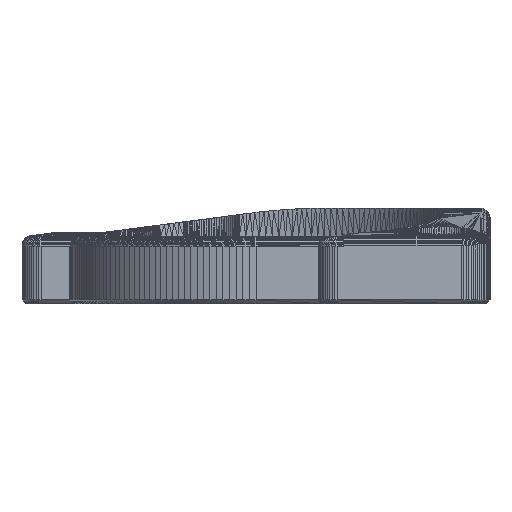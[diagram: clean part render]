
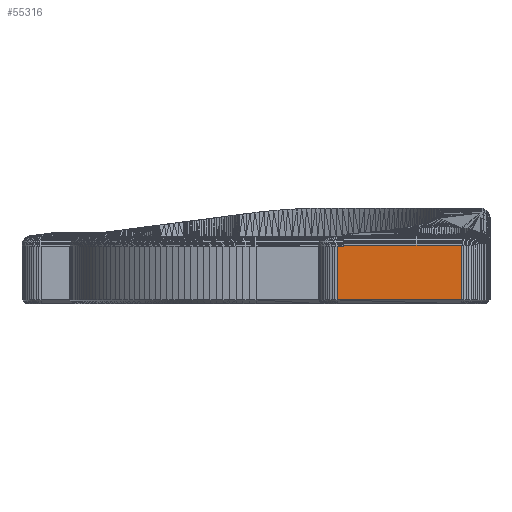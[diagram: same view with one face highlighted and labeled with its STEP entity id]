
A CAD part, front view. The second image highlights one B-rep face of the part: STEP entity #55316.
In plain terms, the highlighted planar face has unit normal (0, -1, 0).
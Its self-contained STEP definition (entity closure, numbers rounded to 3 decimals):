
#55182 = VERTEX_POINT('',#55183);
#55183 = CARTESIAN_POINT('',(89.471,-0.212,
    6.123));
#55223 = PLANE('',#55224);
#55224 = AXIS2_PLACEMENT_3D('',#55225,#55226,#55227);
#55225 = CARTESIAN_POINT('',(89.471,-0.212,
    0.4));
#55226 = DIRECTION('',(0.044,-0.999,-0.));
#55227 = DIRECTION('',(-0.999,-0.044,0.));
#55242 = VERTEX_POINT('',#55243);
#55243 = CARTESIAN_POINT('',(89.471,-0.212,
    0.4));
#55291 = EDGE_CURVE('',#55182,#55242,#55292,.T.);
#55292 = SURFACE_CURVE('',#55293,(#55297,#55304),.PCURVE_S1.);
#55293 = LINE('',#55294,#55295);
#55294 = CARTESIAN_POINT('',(89.471,-0.212,
    6.123));
#55295 = VECTOR('',#55296,1.);
#55296 = DIRECTION('',(0.,0.,-1.));
#55297 = PCURVE('',#55223,#55298);
#55298 = DEFINITIONAL_REPRESENTATION('',(#55299),#55303);
#55299 = LINE('',#55300,#55301);
#55300 = CARTESIAN_POINT('',(0.,-5.723));
#55301 = VECTOR('',#55302,1.);
#55302 = DIRECTION('',(-0.,1.));
#55303 = ( GEOMETRIC_REPRESENTATION_CONTEXT(2) 
PARAMETRIC_REPRESENTATION_CONTEXT() REPRESENTATION_CONTEXT('2D SPACE',''
  ) );
#55304 = PCURVE('',#55305,#55310);
#55305 = PLANE('',#55306);
#55306 = AXIS2_PLACEMENT_3D('',#55307,#55308,#55309);
#55307 = CARTESIAN_POINT('',(77.126,-0.212,6.));
#55308 = DIRECTION('',(0.,-1.,0.));
#55309 = DIRECTION('',(0.,-0.,-1.));
#55310 = DEFINITIONAL_REPRESENTATION('',(#55311),#55315);
#55311 = LINE('',#55312,#55313);
#55312 = CARTESIAN_POINT('',(-0.123,12.345));
#55313 = VECTOR('',#55314,1.);
#55314 = DIRECTION('',(1.,0.));
#55315 = ( GEOMETRIC_REPRESENTATION_CONTEXT(2) 
PARAMETRIC_REPRESENTATION_CONTEXT() REPRESENTATION_CONTEXT('2D SPACE',''
  ) );
#55316 = ADVANCED_FACE('',(#55317),#55305,.T.);
#55317 = FACE_BOUND('',#55318,.T.);
#55318 = EDGE_LOOP('',(#55319,#55349,#55377,#55403,#55404,#55432));
#55319 = ORIENTED_EDGE('',*,*,#55320,.F.);
#55320 = EDGE_CURVE('',#55321,#55323,#55325,.T.);
#55321 = VERTEX_POINT('',#55322);
#55322 = CARTESIAN_POINT('',(76.471,-0.212,6.));
#55323 = VERTEX_POINT('',#55324);
#55324 = CARTESIAN_POINT('',(77.126,-0.212,6.));
#55325 = SURFACE_CURVE('',#55326,(#55330,#55337),.PCURVE_S1.);
#55326 = LINE('',#55327,#55328);
#55327 = CARTESIAN_POINT('',(76.471,-0.212,6.));
#55328 = VECTOR('',#55329,1.);
#55329 = DIRECTION('',(1.,0.,0.));
#55330 = PCURVE('',#55305,#55331);
#55331 = DEFINITIONAL_REPRESENTATION('',(#55332),#55336);
#55332 = LINE('',#55333,#55334);
#55333 = CARTESIAN_POINT('',(-0.,-0.655));
#55334 = VECTOR('',#55335,1.);
#55335 = DIRECTION('',(0.,1.));
#55336 = ( GEOMETRIC_REPRESENTATION_CONTEXT(2) 
PARAMETRIC_REPRESENTATION_CONTEXT() REPRESENTATION_CONTEXT('2D SPACE',''
  ) );
#55337 = PCURVE('',#55338,#55343);
#55338 = PLANE('',#55339);
#55339 = AXIS2_PLACEMENT_3D('',#55340,#55341,#55342);
#55340 = CARTESIAN_POINT('',(76.471,-0.212,6.));
#55341 = DIRECTION('',(0.,-0.997,0.078));
#55342 = DIRECTION('',(0.,-0.078,-0.997));
#55343 = DEFINITIONAL_REPRESENTATION('',(#55344),#55348);
#55344 = LINE('',#55345,#55346);
#55345 = CARTESIAN_POINT('',(0.,0.));
#55346 = VECTOR('',#55347,1.);
#55347 = DIRECTION('',(0.,1.));
#55348 = ( GEOMETRIC_REPRESENTATION_CONTEXT(2) 
PARAMETRIC_REPRESENTATION_CONTEXT() REPRESENTATION_CONTEXT('2D SPACE',''
  ) );
#55349 = ORIENTED_EDGE('',*,*,#55350,.F.);
#55350 = EDGE_CURVE('',#55351,#55321,#55353,.T.);
#55351 = VERTEX_POINT('',#55352);
#55352 = CARTESIAN_POINT('',(76.471,-0.212,
    0.4));
#55353 = SURFACE_CURVE('',#55354,(#55358,#55365),.PCURVE_S1.);
#55354 = LINE('',#55355,#55356);
#55355 = CARTESIAN_POINT('',(76.471,-0.212,
    0.4));
#55356 = VECTOR('',#55357,1.);
#55357 = DIRECTION('',(0.,0.,1.));
#55358 = PCURVE('',#55305,#55359);
#55359 = DEFINITIONAL_REPRESENTATION('',(#55360),#55364);
#55360 = LINE('',#55361,#55362);
#55361 = CARTESIAN_POINT('',(5.6,-0.655));
#55362 = VECTOR('',#55363,1.);
#55363 = DIRECTION('',(-1.,0.));
#55364 = ( GEOMETRIC_REPRESENTATION_CONTEXT(2) 
PARAMETRIC_REPRESENTATION_CONTEXT() REPRESENTATION_CONTEXT('2D SPACE',''
  ) );
#55365 = PCURVE('',#55366,#55371);
#55366 = PLANE('',#55367);
#55367 = AXIS2_PLACEMENT_3D('',#55368,#55369,#55370);
#55368 = CARTESIAN_POINT('',(76.21,-0.195,
    0.4));
#55369 = DIRECTION('',(-0.065,-0.998,
    0.));
#55370 = DIRECTION('',(-0.998,0.065,0.));
#55371 = DEFINITIONAL_REPRESENTATION('',(#55372),#55376);
#55372 = LINE('',#55373,#55374);
#55373 = CARTESIAN_POINT('',(-0.262,0.));
#55374 = VECTOR('',#55375,1.);
#55375 = DIRECTION('',(0.,-1.));
#55376 = ( GEOMETRIC_REPRESENTATION_CONTEXT(2) 
PARAMETRIC_REPRESENTATION_CONTEXT() REPRESENTATION_CONTEXT('2D SPACE',''
  ) );
#55377 = ORIENTED_EDGE('',*,*,#55378,.F.);
#55378 = EDGE_CURVE('',#55242,#55351,#55379,.T.);
#55379 = SURFACE_CURVE('',#55380,(#55384,#55391),.PCURVE_S1.);
#55380 = LINE('',#55381,#55382);
#55381 = CARTESIAN_POINT('',(89.471,-0.212,
    0.4));
#55382 = VECTOR('',#55383,1.);
#55383 = DIRECTION('',(-1.,0.,0.));
#55384 = PCURVE('',#55305,#55385);
#55385 = DEFINITIONAL_REPRESENTATION('',(#55386),#55390);
#55386 = LINE('',#55387,#55388);
#55387 = CARTESIAN_POINT('',(5.6,12.345));
#55388 = VECTOR('',#55389,1.);
#55389 = DIRECTION('',(-0.,-1.));
#55390 = ( GEOMETRIC_REPRESENTATION_CONTEXT(2) 
PARAMETRIC_REPRESENTATION_CONTEXT() REPRESENTATION_CONTEXT('2D SPACE',''
  ) );
#55391 = PCURVE('',#55392,#55397);
#55392 = PLANE('',#55393);
#55393 = AXIS2_PLACEMENT_3D('',#55394,#55395,#55396);
#55394 = CARTESIAN_POINT('',(76.471,-0.212,
    0.4));
#55395 = DIRECTION('',(0.,-0.707,-0.707));
#55396 = DIRECTION('',(0.,0.707,-0.707));
#55397 = DEFINITIONAL_REPRESENTATION('',(#55398),#55402);
#55398 = LINE('',#55399,#55400);
#55399 = CARTESIAN_POINT('',(0.,13.));
#55400 = VECTOR('',#55401,1.);
#55401 = DIRECTION('',(0.,-1.));
#55402 = ( GEOMETRIC_REPRESENTATION_CONTEXT(2) 
PARAMETRIC_REPRESENTATION_CONTEXT() REPRESENTATION_CONTEXT('2D SPACE',''
  ) );
#55403 = ORIENTED_EDGE('',*,*,#55291,.F.);
#55404 = ORIENTED_EDGE('',*,*,#55405,.F.);
#55405 = EDGE_CURVE('',#55406,#55182,#55408,.T.);
#55406 = VERTEX_POINT('',#55407);
#55407 = CARTESIAN_POINT('',(77.126,-0.212,
    6.123));
#55408 = SURFACE_CURVE('',#55409,(#55413,#55420),.PCURVE_S1.);
#55409 = LINE('',#55410,#55411);
#55410 = CARTESIAN_POINT('',(77.126,-0.212,
    6.123));
#55411 = VECTOR('',#55412,1.);
#55412 = DIRECTION('',(1.,0.,0.));
#55413 = PCURVE('',#55305,#55414);
#55414 = DEFINITIONAL_REPRESENTATION('',(#55415),#55419);
#55415 = LINE('',#55416,#55417);
#55416 = CARTESIAN_POINT('',(-0.123,0.));
#55417 = VECTOR('',#55418,1.);
#55418 = DIRECTION('',(0.,1.));
#55419 = ( GEOMETRIC_REPRESENTATION_CONTEXT(2) 
PARAMETRIC_REPRESENTATION_CONTEXT() REPRESENTATION_CONTEXT('2D SPACE',''
  ) );
#55420 = PCURVE('',#55421,#55426);
#55421 = PLANE('',#55422);
#55422 = AXIS2_PLACEMENT_3D('',#55423,#55424,#55425);
#55423 = CARTESIAN_POINT('',(89.471,-0.202,
    6.267));
#55424 = DIRECTION('',(-0.,-0.997,0.072));
#55425 = DIRECTION('',(0.,-0.072,-0.997));
#55426 = DEFINITIONAL_REPRESENTATION('',(#55427),#55431);
#55427 = LINE('',#55428,#55429);
#55428 = CARTESIAN_POINT('',(0.144,-12.345));
#55429 = VECTOR('',#55430,1.);
#55430 = DIRECTION('',(0.,1.));
#55431 = ( GEOMETRIC_REPRESENTATION_CONTEXT(2) 
PARAMETRIC_REPRESENTATION_CONTEXT() REPRESENTATION_CONTEXT('2D SPACE',''
  ) );
#55432 = ORIENTED_EDGE('',*,*,#55433,.F.);
#55433 = EDGE_CURVE('',#55323,#55406,#55434,.T.);
#55434 = SURFACE_CURVE('',#55435,(#55439,#55446),.PCURVE_S1.);
#55435 = LINE('',#55436,#55437);
#55436 = CARTESIAN_POINT('',(77.126,-0.212,6.));
#55437 = VECTOR('',#55438,1.);
#55438 = DIRECTION('',(0.,0.,1.));
#55439 = PCURVE('',#55305,#55440);
#55440 = DEFINITIONAL_REPRESENTATION('',(#55441),#55445);
#55441 = LINE('',#55442,#55443);
#55442 = CARTESIAN_POINT('',(0.,0.));
#55443 = VECTOR('',#55444,1.);
#55444 = DIRECTION('',(-1.,0.));
#55445 = ( GEOMETRIC_REPRESENTATION_CONTEXT(2) 
PARAMETRIC_REPRESENTATION_CONTEXT() REPRESENTATION_CONTEXT('2D SPACE',''
  ) );
#55446 = PCURVE('',#55447,#55452);
#55447 = PLANE('',#55448);
#55448 = AXIS2_PLACEMENT_3D('',#55449,#55450,#55451);
#55449 = CARTESIAN_POINT('',(77.126,6.788,
    7.263));
#55450 = DIRECTION('',(-1.,-0.,0.));
#55451 = DIRECTION('',(-0.,0.,-1.));
#55452 = DEFINITIONAL_REPRESENTATION('',(#55453),#55457);
#55453 = LINE('',#55454,#55455);
#55454 = CARTESIAN_POINT('',(1.263,7.));
#55455 = VECTOR('',#55456,1.);
#55456 = DIRECTION('',(-1.,0.));
#55457 = ( GEOMETRIC_REPRESENTATION_CONTEXT(2) 
PARAMETRIC_REPRESENTATION_CONTEXT() REPRESENTATION_CONTEXT('2D SPACE',''
  ) );
